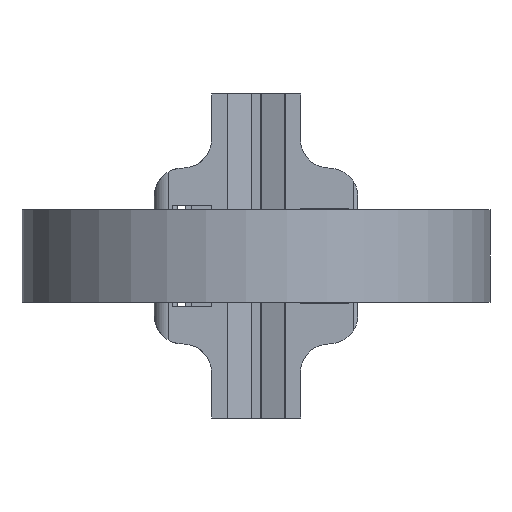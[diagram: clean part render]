
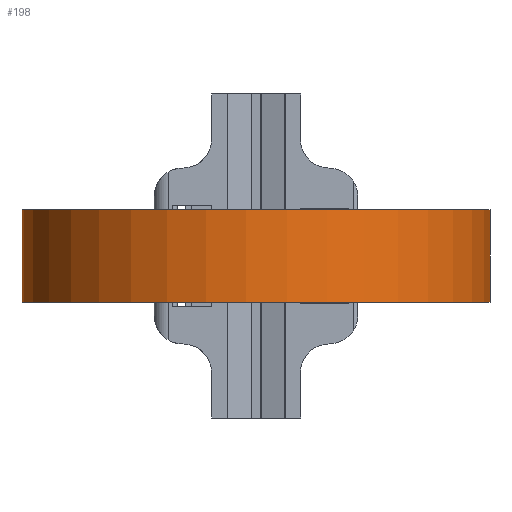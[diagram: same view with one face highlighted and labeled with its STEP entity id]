
A CAD part, front view. The second image highlights one B-rep face of the part: STEP entity #198.
In plain terms, the highlighted cylindrical face has radius 25.3 mm (diameter 50.6 mm), a partial arc.
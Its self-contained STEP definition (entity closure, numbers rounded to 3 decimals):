
#198 = ADVANCED_FACE( '', ( #497 ), #498, .T. );
#497 = FACE_OUTER_BOUND( '', #904, .T. );
#498 = CYLINDRICAL_SURFACE( '', #905, 25.3 );
#904 = EDGE_LOOP( '', ( #1447, #1448, #1449, #1450 ) );
#905 = AXIS2_PLACEMENT_3D( '', #1451, #1452, #1453 );
#1447 = ORIENTED_EDGE( '', *, *, #2594, .T. );
#1448 = ORIENTED_EDGE( '', *, *, #2595, .F. );
#1449 = ORIENTED_EDGE( '', *, *, #2596, .F. );
#1450 = ORIENTED_EDGE( '', *, *, #2597, .T. );
#1451 = CARTESIAN_POINT( '', ( 0., -25.15, 5. ) );
#1452 = DIRECTION( '', ( 0., 0., 1. ) );
#1453 = DIRECTION( '', ( -1., 0., 0. ) );
#2594 = EDGE_CURVE( '', #3182, #3183, #3184, .T. );
#2595 = EDGE_CURVE( '', #3185, #3183, #3186, .T. );
#2596 = EDGE_CURVE( '', #3187, #3185, #3188, .T. );
#2597 = EDGE_CURVE( '', #3187, #3182, #3189, .T. );
#3182 = VERTEX_POINT( '', #4030 );
#3183 = VERTEX_POINT( '', #4031 );
#3184 = CIRCLE( '', #4032, 25.3 );
#3185 = VERTEX_POINT( '', #4033 );
#3186 = LINE( '', #4034, #4035 );
#3187 = VERTEX_POINT( '', #4036 );
#3188 = CIRCLE( '', #4037, 25.3 );
#3189 = LINE( '', #4038, #4039 );
#4030 = CARTESIAN_POINT( '', ( -8.023, -1.156, -5. ) );
#4031 = CARTESIAN_POINT( '', ( 9.982, -1.902, -5. ) );
#4032 = AXIS2_PLACEMENT_3D( '', #4918, #4919, #4920 );
#4033 = CARTESIAN_POINT( '', ( 9.982, -1.902, 5. ) );
#4034 = CARTESIAN_POINT( '', ( 9.982, -1.902, 5. ) );
#4035 = VECTOR( '', #4921, 1000. );
#4036 = CARTESIAN_POINT( '', ( -8.023, -1.156, 5. ) );
#4037 = AXIS2_PLACEMENT_3D( '', #4922, #4923, #4924 );
#4038 = CARTESIAN_POINT( '', ( -8.023, -1.156, 5. ) );
#4039 = VECTOR( '', #4925, 1000. );
#4918 = CARTESIAN_POINT( '', ( 0., -25.15, -5. ) );
#4919 = DIRECTION( '', ( 0., 0., 1. ) );
#4920 = DIRECTION( '', ( 1., 0., 0. ) );
#4921 = DIRECTION( '', ( 0., 0., -1. ) );
#4922 = CARTESIAN_POINT( '', ( 0., -25.15, 5. ) );
#4923 = DIRECTION( '', ( 0., 0., 1. ) );
#4924 = DIRECTION( '', ( 1., 0., 0. ) );
#4925 = DIRECTION( '', ( 0., 0., -1. ) );
